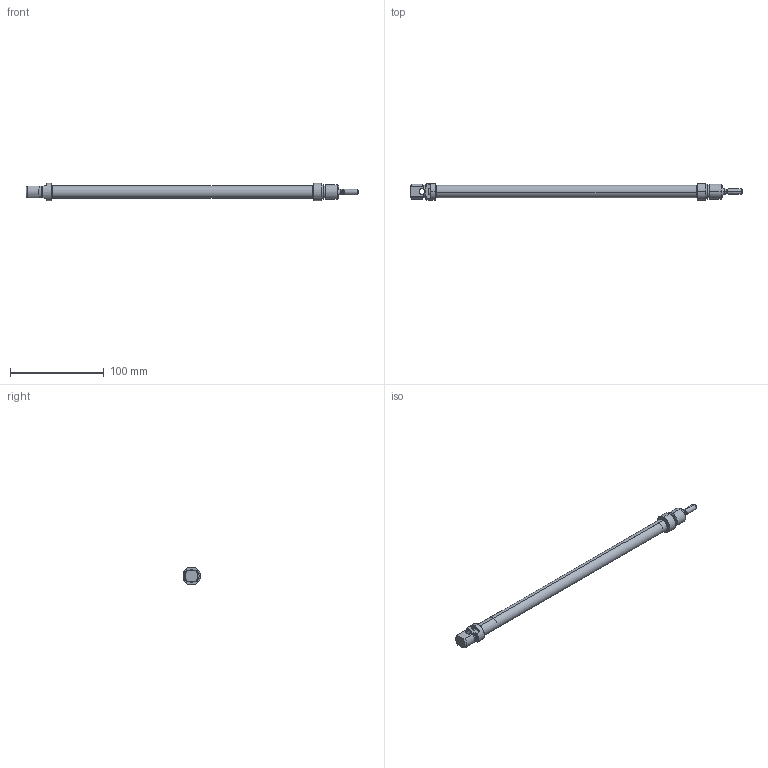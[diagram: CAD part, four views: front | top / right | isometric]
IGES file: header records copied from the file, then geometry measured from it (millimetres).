
Start section: SolidWorks IGES file using analytic representation for surfaces
Global section: file name: K:\Disegni Esecutivi\Cilindri\2_DISEGNI_cilindri_in_produzione\2_Minicilindri ISO 6432\1Minisolidworks\3_minicilindro iso 6432_12 solidworks\complessivomini12\MF012\MF012_PIENO\MF0120250A.igs; native system: SolidWorks 2011; preprocessor: SolidWorks 2011; author: cad01; date: 110505.180552; units: millimetre
Bounding box: 354.5 x 18 x 19 mm (x, y, z)
Surface area: 30359.3 mm2 (no closed solid volume)
Topology: 0 solids, 0 shells, 115 faces, 1820 edges, 1820 vertices
Faces by surface type: revolution 75, bspline 40
